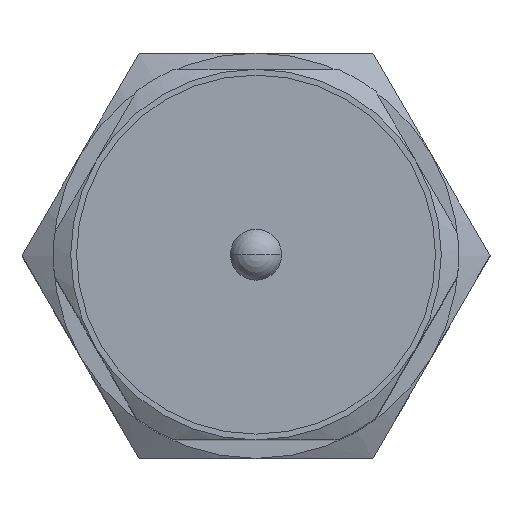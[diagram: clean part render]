
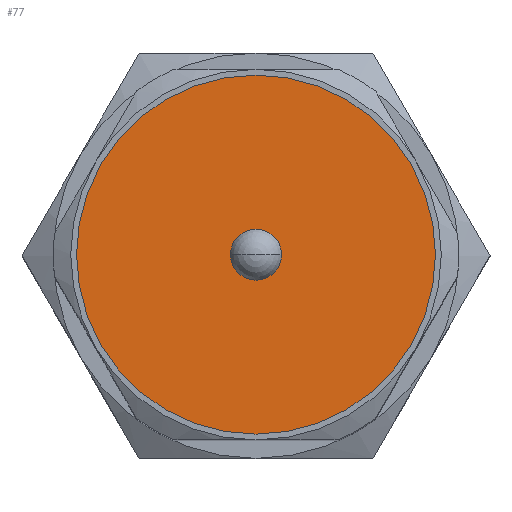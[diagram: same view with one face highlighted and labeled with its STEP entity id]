
A CAD part, top view. The second image highlights one B-rep face of the part: STEP entity #77.
In plain terms, the highlighted planar face has unit normal (0, 0, 1).
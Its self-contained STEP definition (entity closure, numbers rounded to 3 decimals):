
#77=ADVANCED_FACE('',(#473,#474),#472,.T.);
#472=PLANE('',#913);
#473=FACE_OUTER_BOUND('',#914,.T.);
#474=FACE_BOUND('',#915,.T.);
#910=CARTESIAN_POINT('',(-20.15,-32.216,98.5));
#911=DIRECTION('',(0.,0.,1.));
#912=DIRECTION('',(1.,0.,0.));
#913=AXIS2_PLACEMENT_3D('',#910,#911,#912);
#914=EDGE_LOOP('',(#1222,#1223));
#915=EDGE_LOOP('',(#1224,#1225));
#1222=ORIENTED_EDGE('',*,*,#1410,.F.);
#1223=ORIENTED_EDGE('',*,*,#1411,.F.);
#1224=ORIENTED_EDGE('',*,*,#1412,.T.);
#1225=ORIENTED_EDGE('',*,*,#1413,.T.);
#1410=EDGE_CURVE('',#2126,#2127,#2128,.T.);
#1411=EDGE_CURVE('',#2127,#2126,#2134,.T.);
#1412=EDGE_CURVE('',#2140,#2141,#2142,.T.);
#1413=EDGE_CURVE('',#2141,#2140,#2148,.T.);
#2126=VERTEX_POINT('',#2901);
#2127=VERTEX_POINT('',#2902);
#2128=CIRCLE('',#2906,15.5);
#2134=CIRCLE('',#2910,15.5);
#2140=VERTEX_POINT('',#2911);
#2141=VERTEX_POINT('',#2912);
#2142=CIRCLE('',#2916,2.2);
#2148=CIRCLE('',#2920,2.2);
#2901=CARTESIAN_POINT('',(15.5,0.,98.5));
#2902=CARTESIAN_POINT('',(-15.5,0.,98.5));
#2903=CARTESIAN_POINT('',(0.,0.,98.5));
#2904=DIRECTION('',(0.,0.,-1.));
#2905=DIRECTION('',(-1.,0.,0.));
#2906=AXIS2_PLACEMENT_3D('',#2903,#2904,#2905);
#2907=CARTESIAN_POINT('',(0.,0.,98.5));
#2908=DIRECTION('',(0.,0.,-1.));
#2909=DIRECTION('',(-1.,0.,0.));
#2910=AXIS2_PLACEMENT_3D('',#2907,#2908,#2909);
#2911=CARTESIAN_POINT('',(-2.2,0.,98.5));
#2912=CARTESIAN_POINT('',(2.2,0.,98.5));
#2913=CARTESIAN_POINT('',(0.,0.,98.5));
#2914=DIRECTION('',(0.,0.,-1.));
#2915=DIRECTION('',(-1.,0.,0.));
#2916=AXIS2_PLACEMENT_3D('',#2913,#2914,#2915);
#2917=CARTESIAN_POINT('',(0.,0.,98.5));
#2918=DIRECTION('',(0.,0.,-1.));
#2919=DIRECTION('',(-1.,0.,0.));
#2920=AXIS2_PLACEMENT_3D('',#2917,#2918,#2919);
